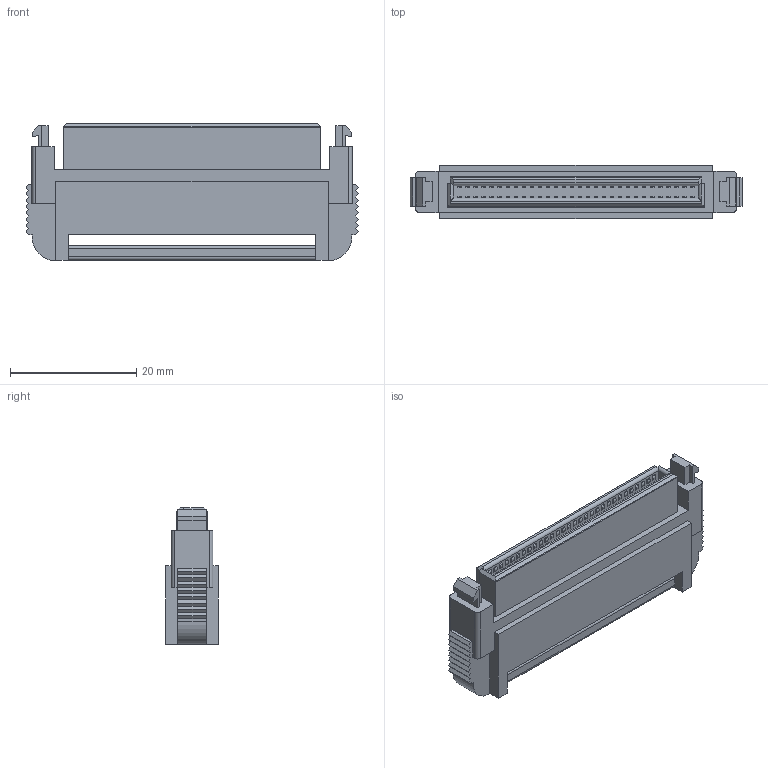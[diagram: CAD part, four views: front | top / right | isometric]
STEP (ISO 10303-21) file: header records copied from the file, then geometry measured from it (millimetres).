
FILE_DESCRIPTION(('Creo Elements/Direct Modeling STEP Export'),'2;1');
FILE_NAME('P3D800_8822-060-171X-F.stp','2023-03-28T 9:50:04',(''),(''),'Creo Elements/Direct Modeling STEP processor for AP214 (Solid Model)','Creo Elements/Direct Modeling 20.4A 18-Oct-2021 (C) Parametric Technology GmbH','');
FILE_SCHEMA(('AUTOMOTIVE_DESIGN { 1 0 10303 214 1 1 1 1 }'));
Length unit declared in the file: millimetre
Products named in the file (2): 8822-060-171-F
Assembly tree (1 placements, depth 2):
  8822-060-171-F
    8822-060-171-F
Bounding box: 52.63 x 8.4 x 21.6 mm (x, y, z)
Volume: 5742.3 mm3; surface area: 4433.7 mm2
Topology: 1 solids, 1 shells, 862 faces, 2268 edges, 1470 vertices
Faces by surface type: plane 665, cylinder 197
Entity records: 24730 total; most frequent: ORIENTED_EDGE 4536, CARTESIAN_POINT 4244, DIRECTION 3907, EDGE_CURVE 2268, VECTOR 1641, LINE 1641, VERTEX_POINT 1470, AXIS2_PLACEMENT_3D 1133
